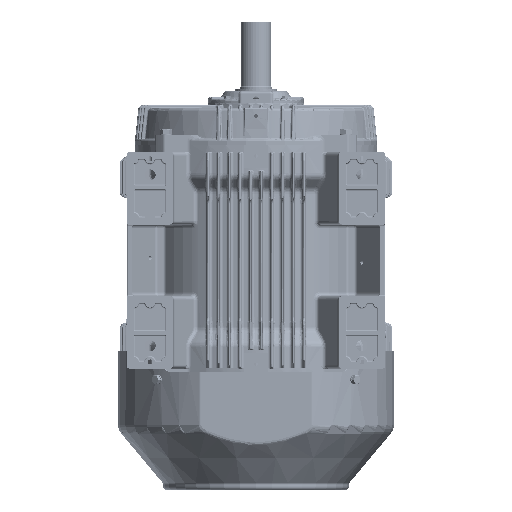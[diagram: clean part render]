
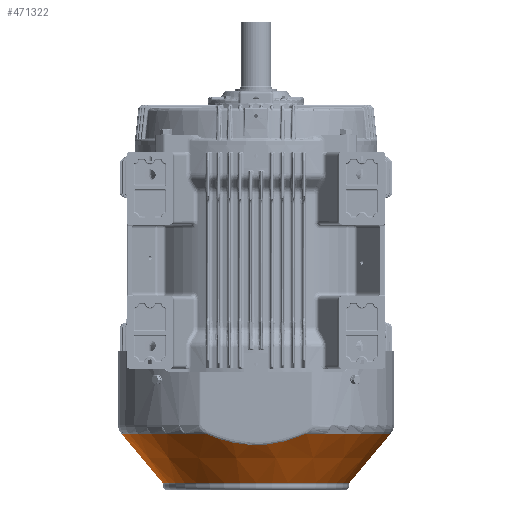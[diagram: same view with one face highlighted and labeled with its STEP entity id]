
A CAD part, front view. The second image highlights one B-rep face of the part: STEP entity #471322.
In plain terms, the highlighted conical face has half-angle 40 degrees and reference radius 201.872 mm.
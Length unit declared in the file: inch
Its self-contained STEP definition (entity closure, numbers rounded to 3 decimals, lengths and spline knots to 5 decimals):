
#18675 = CARTESIAN_POINT ( 'NONE',  ( 2.56484, -10.60825, -15.3484 ) ) ;
#21298 = CIRCLE ( 'NONE', #696908, 11.43627 ) ;
#28026 = VECTOR ( 'NONE', #44344, 39.37008 ) ;
#29776 = CARTESIAN_POINT ( 'NONE',  ( 3.96498, -10.59751, -14.86898 ) ) ;
#33254 = CARTESIAN_POINT ( 'NONE',  ( 7.9477, 0., -18.87659 ) ) ;
#44344 = DIRECTION ( 'NONE',  ( 0.643, 0., 0.766 ) ) ;
#46865 = AXIS2_PLACEMENT_3D ( 'NONE', #383810, #440464, #433003 ) ;
#57369 = DIRECTION ( 'NONE',  ( 1., 0., 0. ) ) ;
#58547 = CARTESIAN_POINT ( 'NONE',  ( -2.81884, -10.60644, -15.26965 ) ) ;
#62274 = CARTESIAN_POINT ( 'NONE',  ( -2.55003, -10.60823, -15.34741 ) ) ;
#63900 = DIRECTION ( 'NONE',  ( 0., 0., 1. ) ) ;
#64833 = CARTESIAN_POINT ( 'NONE',  ( 0., 0., -18.87659 ) ) ;
#69301 = CARTESIAN_POINT ( 'NONE',  ( -7.9477, 0., -18.87659 ) ) ;
#86372 = CARTESIAN_POINT ( 'NONE',  ( -1.82983, -10.61231, -15.52131 ) ) ;
#88677 = VERTEX_POINT ( 'NONE', #88718 ) ;
#88718 = CARTESIAN_POINT ( 'NONE',  ( 7.9477, 0., -18.87659 ) ) ;
#115205 = CARTESIAN_POINT ( 'NONE',  ( -2.37036, -10.60933, -15.39457 ) ) ;
#120516 = DIRECTION ( 'NONE',  ( 1., 0., 0. ) ) ;
#142987 = CARTESIAN_POINT ( 'NONE',  ( 3.6194, -10.60048, -15.00503 ) ) ;
#150396 = CARTESIAN_POINT ( 'NONE',  ( -3.96327, -10.59747, -14.86584 ) ) ;
#153847 = LINE ( 'NONE', #33254, #28026 ) ;
#164987 = EDGE_CURVE ( 'NONE', #346119, #517846, #21298, .T. ) ;
#189913 = DIRECTION ( 'NONE',  ( -0.643, 0., 0.766 ) ) ;
#199620 = CARTESIAN_POINT ( 'NONE',  ( -0.73849, -10.616, -15.67343 ) ) ;
#211645 = AXIS2_PLACEMENT_3D ( 'NONE', #226333, #63900, #399936 ) ;
#222875 = EDGE_CURVE ( 'NONE', #661658, #88677, #573323, .T. ) ;
#226333 = CARTESIAN_POINT ( 'NONE',  ( 0., 0., -18.87659 ) ) ;
#248641 = DIRECTION ( 'NONE',  ( 0., 0., 1. ) ) ;
#285083 = CARTESIAN_POINT ( 'NONE',  ( -3.17508, -10.60389, -15.15712 ) ) ;
#292100 = ORIENTED_EDGE ( 'NONE', *, *, #222875, .T. ) ;
#297915 = CARTESIAN_POINT ( 'NONE',  ( 0., 0., -14.71908 ) ) ;
#305515 = CARTESIAN_POINT ( 'NONE',  ( 1.48071, -10.61383, -15.58429 ) ) ;
#311726 = AXIS2_PLACEMENT_3D ( 'NONE', #64833, #408357, #57369 ) ;
#313492 = VERTEX_POINT ( 'NONE', #523087 ) ;
#327050 = EDGE_CURVE ( 'NONE', #88677, #313492, #153847, .T. ) ;
#334077 = EDGE_CURVE ( 'NONE', #383563, #313492, #733828, .T. ) ;
#336141 = ORIENTED_EDGE ( 'NONE', *, *, #327050, .T. ) ;
#341968 = B_SPLINE_CURVE_WITH_KNOTS ( 'NONE', 3,
 ( #660048, #29776, #142987, #482886, #18675, #373307, #305515, #422513, #539523, #712985, #426209, #656332, #486606, #603409, #716729, #546896, #199620, #433630, #86372, #115205, #62274, #58547, #610878, #462443, #285083, #349184, #671191, #150396, #522826, #405827 ),
 .UNSPECIFIED., .F., .F.,
 ( 4, 2, 2, 2, 2, 2, 2, 2, 2, 2, 2, 2, 2, 2, 4 ),
 ( 0., 0.02814, 0.05628, 0.08442, 0.08794, 0.09146, 0.09849, 0.11256, 0.1407, 0.16884, 0.18291, 0.18995, 0.19698, 0.21105, 0.22512 ),
 .UNSPECIFIED. ) ;
#346119 = VERTEX_POINT ( 'NONE', #698874 ) ;
#349184 = CARTESIAN_POINT ( 'NONE',  ( -3.44013, -10.60186, -15.06651 ) ) ;
#373307 = CARTESIAN_POINT ( 'NONE',  ( 1.84553, -10.61224, -15.51818 ) ) ;
#383563 = VERTEX_POINT ( 'NONE', #609093 ) ;
#383810 = CARTESIAN_POINT ( 'NONE',  ( 0., 0., -14.71908 ) ) ;
#399936 = DIRECTION ( 'NONE',  ( 1., 0., 0. ) ) ;
#405827 = CARTESIAN_POINT ( 'NONE',  ( -4.30675, -10.59435, -14.71908 ) ) ;
#408357 = DIRECTION ( 'NONE',  ( 0., 0., 1. ) ) ;
#422513 = CARTESIAN_POINT ( 'NONE',  ( 1.06365, -10.61505, -15.63454 ) ) ;
#426209 = CARTESIAN_POINT ( 'NONE',  ( 0.87754, -10.61553, -15.65417 ) ) ;
#433003 = DIRECTION ( 'NONE',  ( 1., 0., 0. ) ) ;
#433630 = CARTESIAN_POINT ( 'NONE',  ( -1.46749, -10.61388, -15.58615 ) ) ;
#440464 = DIRECTION ( 'NONE',  ( 0., 0., 1. ) ) ;
#457449 = ORIENTED_EDGE ( 'NONE', *, *, #164987, .F. ) ;
#461239 = FACE_OUTER_BOUND ( 'NONE', #566243, .T. ) ;
#461504 = EDGE_CURVE ( 'NONE', #383563, #517846, #341968, .T. ) ;
#462443 = CARTESIAN_POINT ( 'NONE',  ( -3.08639, -10.60455, -15.18631 ) ) ;
#471322 = ADVANCED_FACE ( 'NONE', ( #461239 ), #637179, .T. ) ;
#482886 = CARTESIAN_POINT ( 'NONE',  ( 2.91933, -10.60585, -15.24474 ) ) ;
#486606 = CARTESIAN_POINT ( 'NONE',  ( 0.64497, -10.61601, -15.67378 ) ) ;
#517846 = VERTEX_POINT ( 'NONE', #653719 ) ;
#522826 = CARTESIAN_POINT ( 'NONE',  ( -4.13567, -10.59593, -14.79411 ) ) ;
#523087 = CARTESIAN_POINT ( 'NONE',  ( 11.43627, 0., -14.71908 ) ) ;
#531021 = ORIENTED_EDGE ( 'NONE', *, *, #591625, .F. ) ;
#539523 = CARTESIAN_POINT ( 'NONE',  ( 1.01722, -10.61518, -15.63978 ) ) ;
#546896 = CARTESIAN_POINT ( 'NONE',  ( -0.37184, -10.61655, -15.69586 ) ) ;
#552430 = ORIENTED_EDGE ( 'NONE', *, *, #461504, .T. ) ;
#556975 = ORIENTED_EDGE ( 'NONE', *, *, #334077, .F. ) ;
#566243 = EDGE_LOOP ( 'NONE', ( #531021, #292100, #336141, #556975, #552430, #457449 ) ) ;
#573323 = CIRCLE ( 'NONE', #211645, 7.9477 ) ;
#576168 = VECTOR ( 'NONE', #189913, 39.37008 ) ;
#590026 = LINE ( 'NONE', #69301, #576168 ) ;
#591625 = EDGE_CURVE ( 'NONE', #661658, #346119, #590026, .T. ) ;
#603409 = CARTESIAN_POINT ( 'NONE',  ( 0.36657, -10.61642, -15.69053 ) ) ;
#606024 = CARTESIAN_POINT ( 'NONE',  ( -7.9477, 0., -18.87659 ) ) ;
#609093 = CARTESIAN_POINT ( 'NONE',  ( 4.30675, -10.59435, -14.71908 ) ) ;
#610878 = CARTESIAN_POINT ( 'NONE',  ( -2.90831, -10.60582, -15.24256 ) ) ;
#637179 = CONICAL_SURFACE ( 'NONE', #311726, 7.9477, 0.698 ) ;
#653719 = CARTESIAN_POINT ( 'NONE',  ( -4.30675, -10.59435, -14.71908 ) ) ;
#656332 = CARTESIAN_POINT ( 'NONE',  ( 0.73791, -10.61584, -15.66679 ) ) ;
#660048 = CARTESIAN_POINT ( 'NONE',  ( 4.30675, -10.59435, -14.71908 ) ) ;
#661658 = VERTEX_POINT ( 'NONE', #606024 ) ;
#671191 = CARTESIAN_POINT ( 'NONE',  ( -3.61553, -10.60043, -15.00203 ) ) ;
#696908 = AXIS2_PLACEMENT_3D ( 'NONE', #297915, #248641, #120516 ) ;
#698874 = CARTESIAN_POINT ( 'NONE',  ( -11.43627, 0., -14.71908 ) ) ;
#712985 = CARTESIAN_POINT ( 'NONE',  ( 0.92417, -10.61542, -15.6496 ) ) ;
#716729 = CARTESIAN_POINT ( 'NONE',  ( 0.18154, -10.61655, -15.69604 ) ) ;
#733828 = CIRCLE ( 'NONE', #46865, 11.43627 ) ;
